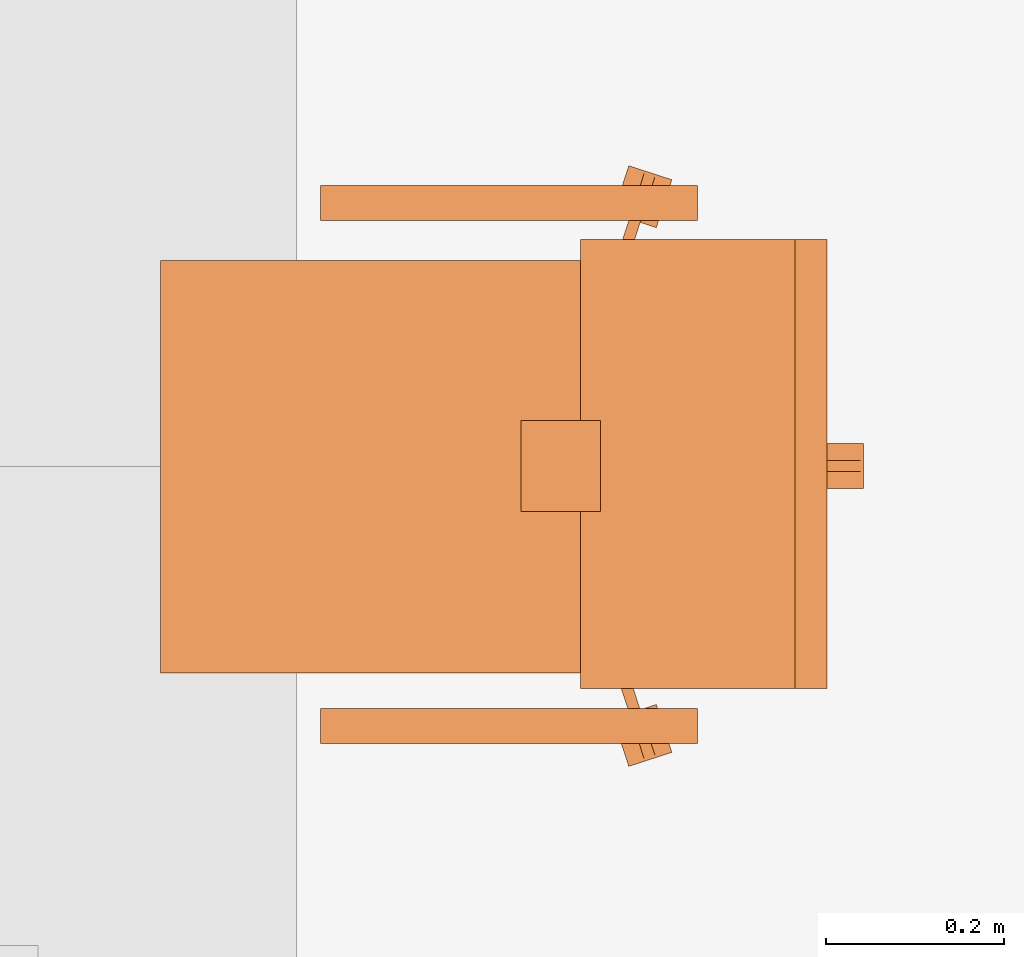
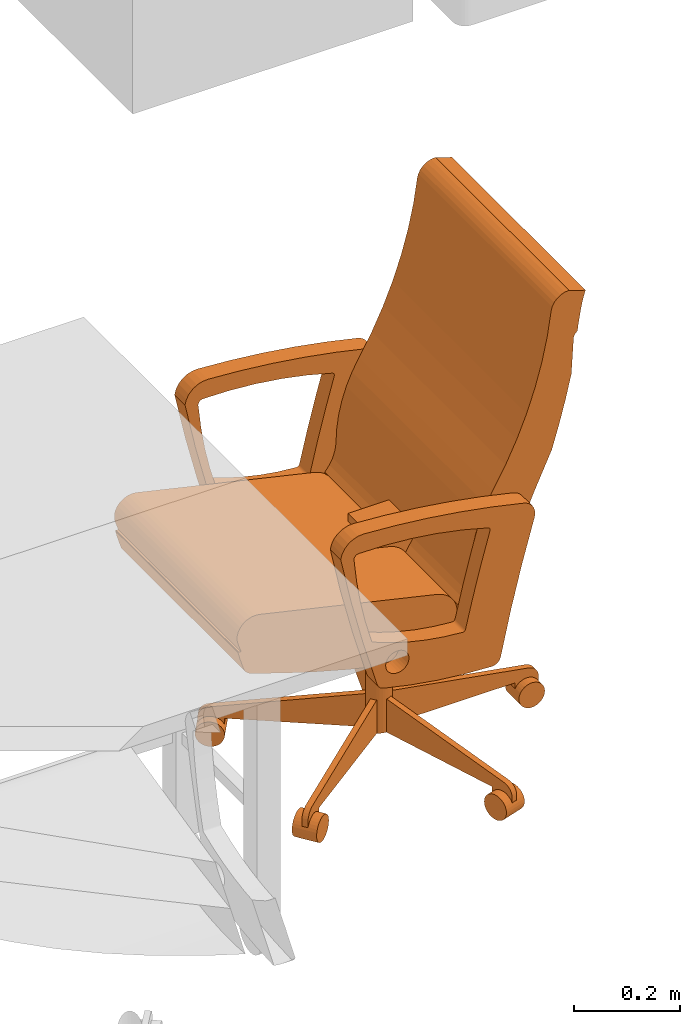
# One storey, part 58 of 142: 1 proxy.
"""IFC2X3 building model written with IfcOpenShell, lengths in feet."""

import ifcopenshell
import ifcopenshell.guid

model = None  # the IFC model being written
_history = None  # IfcOwnerHistory: only IFC2X3 demands one
_inside = {}  # id of a spatial element -> (the spatial element, [elements in it])
_under = {}  # id of a project, library or spatial element -> (it, [spatial elements below it])
_declared = {}  # id of a project -> (the project, [libraries it declares])
_typed = {}  # id of a type object -> (the type object, [elements of that type])
_made_of = {}  # id of a material, layer set ... -> (it, [elements and type objects made of it])


def new_model(schema):
    """Start an empty IFC model of exactly this schema.

    Asked for "IFC4X3", IfcOpenShell would pick the latest addendum, in which some entities
    have other attributes; the version numbers below select the first issue.
    IFC2X3 requires an IfcOwnerHistory on every rooted entity: one is made here for all.
    """
    global model, _history
    if schema == "IFC4X3":
        model = ifcopenshell.file(schema_version=(4, 3, 0, 0))
    else:
        model = ifcopenshell.file(schema=schema)
    _inside.clear()
    _under.clear()
    _declared.clear()
    _typed.clear()
    _made_of.clear()
    _history = None
    if model.schema == "IFC2X3":
        org = make("IfcOrganization", Name="unknown")
        user = make(
            "IfcPersonAndOrganization",
            ThePerson=make("IfcPerson", FamilyName="unknown"),
            TheOrganization=org,
        )
        app = make(
            "IfcApplication",
            ApplicationDeveloper=org,
            Version="unknown",
            ApplicationFullName="unknown",
            ApplicationIdentifier="unknown",
        )
        _history = make(
            "IfcOwnerHistory",
            OwningUser=user,
            OwningApplication=app,
            ChangeAction="ADDED",
            CreationDate=0,
        )
    return model


def make(cls, **values):
    """One entity of the class cls with the attributes given. An attribute that is None is left unset."""
    return model.create_entity(
        cls, **{name: value for name, value in values.items() if value is not None}
    )


def entity(cls, *values):
    """Any entity or typed value of the class cls, its attributes in the order of the schema. None: left unset."""
    e = model.create_entity(cls)
    for i, value in enumerate(values):
        if value is not None:
            e[i] = value
    return e


def rooted(cls, **values):
    """An entity with a GlobalId (a new one), such as an element, a storey or a relation."""
    return make(cls, GlobalId=ifcopenshell.guid.new(), OwnerHistory=_history, **values)


def si_unit(unit_type, name, prefix=None):
    """IfcSIUnit, for example si_unit("LENGTHUNIT", "METRE", prefix="MILLI")."""
    return make("IfcSIUnit", UnitType=unit_type, Prefix=prefix, Name=name)


def converted_unit(unit_type, name, factor, base, dimensions=None, offset=None):
    """IfcConversionBasedUnit, such as the inch: factor (a typed value) times the base unit."""
    return make(
        "IfcConversionBasedUnit"
        if offset is None
        else "IfcConversionBasedUnitWithOffset",
        ConversionOffset=offset,
        Dimensions=None
        if dimensions is None
        else entity("IfcDimensionalExponents", *dimensions),
        UnitType=unit_type,
        Name=name,
        ConversionFactor=make(
            "IfcMeasureWithUnit", ValueComponent=factor, UnitComponent=base
        ),
    )


def derived_unit(unit_type, elements):
    """IfcDerivedUnit: a product of units, each with its exponent."""
    return make(
        "IfcDerivedUnit",
        Elements=[
            make("IfcDerivedUnitElement", Unit=unit, Exponent=power)
            for unit, power in elements
        ],
        UnitType=unit_type,
    )


def assignment(units):
    """IfcUnitAssignment: the units of a project."""
    return None if units is None else make("IfcUnitAssignment", Units=units)


def point(xyz):
    """IfcCartesianPoint."""
    return None if xyz is None else make("IfcCartesianPoint", Coordinates=xyz)


def direction(xyz):
    """IfcDirection."""
    return None if xyz is None else make("IfcDirection", DirectionRatios=xyz)


def frame(location, z_axis=None, x_axis=None):
    """IfcAxis2Placement3D, a coordinate frame: its origin and axes. An axis left out is left unset."""
    return make(
        "IfcAxis2Placement3D",
        Location=point(location),
        Axis=direction(z_axis),
        RefDirection=direction(x_axis),
    )


def frame_2d(location, x_axis=None):
    """IfcAxis2Placement2D, a coordinate frame in the plane: its origin and x axis."""
    return make(
        "IfcAxis2Placement2D", Location=point(location), RefDirection=direction(x_axis)
    )


def origin():
    """The frame at (0, 0, 0) with its axes left unset."""
    return frame((0.0, 0.0, 0.0))


def place(relative_to, where):
    """IfcLocalPlacement: puts the frame where relative to a parent placement (None: the world)."""
    return make(
        "IfcLocalPlacement", PlacementRelTo=relative_to, RelativePlacement=where
    )


def context(
    kind, dimensions, precision=None, world=None, true_north=None, identifier=None
):
    """IfcGeometricRepresentationContext, for example the 3D "Model" context."""
    return make(
        "IfcGeometricRepresentationContext",
        ContextIdentifier=identifier,
        ContextType=kind,
        CoordinateSpaceDimension=dimensions,
        Precision=precision,
        WorldCoordinateSystem=world,
        TrueNorth=true_north,
    )


def subcontext(parent, identifier, kind, view, scale=None):
    """IfcGeometricRepresentationSubContext, for example "Body" below "Model"."""
    return make(
        "IfcGeometricRepresentationSubContext",
        ContextIdentifier=identifier,
        ContextType=kind,
        ParentContext=parent,
        TargetScale=scale,
        TargetView=view,
    )


def project(units=None, contexts=None):
    """IfcProject with its units and contexts."""
    return rooted(
        "IfcProject",
        Name="project",
        RepresentationContexts=contexts,
        UnitsInContext=assignment(units),
    )


def spatial(cls, under=None, at=None, **own):
    """A site, building, storey or space (cls), placed at a placement, below another one or the project."""
    s = rooted(cls, ObjectPlacement=at, **own)
    if under is not None:
        _under.setdefault(under.id(), (under, []))[1].append(s)
    return s


def polyline(points):
    """IfcPolyline through the points."""
    return make("IfcPolyline", Points=[point(p) for p in points])


def circle_curve(where, radius):
    """IfcCircle in the frame where."""
    return make("IfcCircle", Position=where, Radius=radius)


def parameter(value):
    """IfcParameterValue: where a trimmed curve begins or ends, as a parameter of its basis curve."""
    return model.create_entity("IfcParameterValue", value)


def trimmed(basis, trim1, trim2, sense, master):
    """IfcTrimmedCurve: the piece of a basis curve between two trims."""
    return make(
        "IfcTrimmedCurve",
        BasisCurve=basis,
        Trim1=trim1,
        Trim2=trim2,
        SenseAgreement=sense,
        MasterRepresentation=master,
    )


def segment(curve, same_sense, transition):
    """IfcCompositeCurveSegment."""
    return make(
        "IfcCompositeCurveSegment",
        Transition=transition,
        SameSense=same_sense,
        ParentCurve=curve,
    )


def composite_curve(segments, self_intersect=None):
    """IfcCompositeCurve: segments joined end to end."""
    return make("IfcCompositeCurve", Segments=segments, SelfIntersect=self_intersect)


def profile(cls, at=None, kind="AREA", **sizes):
    """A parametric profile (cls). Its sizes go by their IFC names, for example OverallWidth=200.0."""
    return make(cls, ProfileType=kind, Position=at, **sizes)


def circle(**sizes):
    """IfcCircleProfileDef."""
    return profile("IfcCircleProfileDef", **sizes)


def outline(outer, holes=None, kind="AREA"):
    """IfcArbitraryClosedProfileDef: a profile drawn as a closed curve; with holes, ...WithVoids."""
    if holes is None:
        return make("IfcArbitraryClosedProfileDef", ProfileType=kind, OuterCurve=outer)
    return make(
        "IfcArbitraryProfileDefWithVoids",
        ProfileType=kind,
        OuterCurve=outer,
        InnerCurves=holes,
    )


def extrude(swept, where, along, depth):
    """IfcExtrudedAreaSolid: the profile swept, set in the frame where, extruded along a direction by depth."""
    return make(
        "IfcExtrudedAreaSolid",
        SweptArea=swept,
        Position=where,
        ExtrudedDirection=direction(along),
        Depth=depth,
    )


def shape(context_of_items, identifier, shape_type, items):
    """IfcShapeRepresentation: the items that make up one representation, for example the "Body"."""
    return make(
        "IfcShapeRepresentation",
        ContextOfItems=context_of_items,
        RepresentationIdentifier=identifier,
        RepresentationType=shape_type,
        Items=items,
    )


def source(mapping_origin, context_of_items, identifier, shape_type, items):
    """IfcRepresentationMap: a shape defined once, which mapped items show again and again."""
    return make(
        "IfcRepresentationMap",
        MappingOrigin=mapping_origin,
        MappedRepresentation=shape(context_of_items, identifier, shape_type, items),
    )


def transform(
    local_origin,
    x_axis=None,
    y_axis=None,
    z_axis=None,
    scale=None,
    scale2=None,
    scale3=None,
    uniform=True,
):
    """IfcCartesianTransformationOperator3D, or its non-uniform kind. x_axis, y_axis, z_axis: its Axis1, 2, 3."""
    if uniform:
        return make(
            "IfcCartesianTransformationOperator3D",
            Axis1=direction(x_axis),
            Axis2=direction(y_axis),
            LocalOrigin=point(local_origin),
            Scale=scale,
            Axis3=direction(z_axis),
        )
    return make(
        "IfcCartesianTransformationOperator3DnonUniform",
        Axis1=direction(x_axis),
        Axis2=direction(y_axis),
        LocalOrigin=point(local_origin),
        Scale=scale,
        Axis3=direction(z_axis),
        Scale2=scale2,
        Scale3=scale3,
    )


def mapped(mapping_source, mapping_target):
    """IfcMappedItem: shows the shape of a source again, moved by a transform."""
    return make(
        "IfcMappedItem", MappingSource=mapping_source, MappingTarget=mapping_target
    )


def made_of(thing, what):
    """Note that an element or type object is made of a material, layer set ...; save() writes the relation."""
    if what is not None:
        _made_of.setdefault(what.id(), (what, []))[1].append(thing)
    return thing


def type_object(cls, material=None, **own):
    """A type object (cls), such as IfcWallType, which elements share."""
    return made_of(rooted(cls, **own), material)


def type_shapes(of_type, sources):
    """Give a type object the sources (RepresentationMaps) that its elements show as mapped items."""
    of_type.RepresentationMaps = sources


def element(
    cls,
    number,
    at=None,
    inside=None,
    cuts=None,
    type_object=None,
    material=None,
    context=None,
    identifier="Body",
    shape_type=None,
    held_by="IfcProductDefinitionShape",
    body=None,
    shapes=None,
    **own,
):
    """One element of the class cls, such as IfcWall. Its Tag is "e" and its number.

    at: its placement. inside: the storey or other place that contains it. cuts: it is an
    opening in that element (IfcRelVoidsElement). A single representation is given by context,
    identifier, shape_type and body (its items); several are given by shapes. held_by: the class
    of the entity that holds the representations. save() writes the other relations.
    """
    e = rooted(cls, Tag="e%d" % number, ObjectPlacement=at, **own)
    if body is not None:
        shapes = [shape(context, identifier, shape_type, body)]
    if shapes is not None:
        e.Representation = make(held_by, Representations=shapes)
    if inside is not None:
        _inside.setdefault(inside.id(), (inside, []))[1].append(e)
    if cuts is not None:
        rooted(
            "IfcRelVoidsElement", RelatingBuildingElement=cuts, RelatedOpeningElement=e
        )
    if type_object is not None:
        _typed.setdefault(type_object.id(), (type_object, []))[1].append(e)
    return made_of(e, material)


def aggregate(whole, parts):
    """IfcRelAggregates: a whole, such as a stair, and the parts it consists of."""
    return rooted("IfcRelAggregates", RelatingObject=whole, RelatedObjects=parts)


def save(model, path):
    """Write the relations noted so far, then the file.

    IfcRelAggregates (storeys below a building ...), IfcRelContainedInSpatialStructure (elements
    in a storey), IfcRelDefinesByType, IfcRelAssociatesMaterial and IfcRelDeclares: one each for
    every whole, place, type object, material and project.
    """
    for whole, parts in _under.values():
        aggregate(whole, parts)
    for where, things in _inside.values():
        rooted(
            "IfcRelContainedInSpatialStructure",
            RelatedElements=things,
            RelatingStructure=where,
        )
    for kind, things in _typed.values():
        rooted("IfcRelDefinesByType", RelatedObjects=things, RelatingType=kind)
    for what, things in _made_of.values():
        rooted("IfcRelAssociatesMaterial", RelatedObjects=things, RelatingMaterial=what)
    for by, libraries in _declared.values():
        rooted("IfcRelDeclares", RelatingContext=by, RelatedDefinitions=libraries)
    model.write(path)


model = new_model("IFC2X3")

# Units and contexts
model_context = context("Model", 3, precision=0.0001, world=origin(), true_north=direction((6.12303176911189e-17, 1.0)))
body_context = subcontext(model_context, "Body", "Model", "MODEL_VIEW")
ifc_project = project(units=[converted_unit("LENGTHUNIT", "FOOT", entity("IfcRatioMeasure", 0.3048), si_unit("LENGTHUNIT", "METRE"), dimensions=[1, 0, 0, 0, 0, 0, 0]), converted_unit("AREAUNIT", "SQUARE FOOT", entity("IfcRatioMeasure", 0.09290304), si_unit("AREAUNIT", "SQUARE_METRE"), dimensions=[2, 0, 0, 0, 0, 0, 0]), converted_unit("VOLUMEUNIT", "CUBIC FOOT", entity("IfcRatioMeasure", 0.028316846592), si_unit("VOLUMEUNIT", "CUBIC_METRE"), dimensions=[3, 0, 0, 0, 0, 0, 0]), converted_unit("PLANEANGLEUNIT", "DEGREE", entity("IfcRatioMeasure", 0.0174532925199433), si_unit("PLANEANGLEUNIT", "RADIAN"), dimensions=[0, 0, 0, 0, 0, 0, 0]), si_unit("MASSUNIT", "GRAM", prefix="KILO"), derived_unit("MASSDENSITYUNIT", [(si_unit("MASSUNIT", "GRAM", prefix="KILO"), 1), (si_unit("LENGTHUNIT", "METRE"), -3)]), si_unit("TIMEUNIT", "SECOND"), si_unit("FREQUENCYUNIT", "HERTZ"), si_unit("THERMODYNAMICTEMPERATUREUNIT", "DEGREE_CELSIUS"), derived_unit("THERMALTRANSMITTANCEUNIT", [(si_unit("MASSUNIT", "GRAM", prefix="KILO"), 1), (si_unit("THERMODYNAMICTEMPERATUREUNIT", "KELVIN"), -1), (si_unit("TIMEUNIT", "SECOND"), -3)]), derived_unit("VOLUMETRICFLOWRATEUNIT", [(si_unit("LENGTHUNIT", "METRE"), 3), (si_unit("TIMEUNIT", "SECOND"), -1)]), si_unit("ELECTRICCURRENTUNIT", "AMPERE"), si_unit("ELECTRICVOLTAGEUNIT", "VOLT"), si_unit("POWERUNIT", "WATT"), si_unit("FORCEUNIT", "NEWTON"), si_unit("ILLUMINANCEUNIT", "LUX"), si_unit("LUMINOUSFLUXUNIT", "LUMEN"), si_unit("LUMINOUSINTENSITYUNIT", "CANDELA"), derived_unit("USERDEFINED", [(si_unit("MASSUNIT", "GRAM", prefix="KILO"), -1), (si_unit("LENGTHUNIT", "METRE"), -2), (si_unit("TIMEUNIT", "SECOND"), 3), (si_unit("LUMINOUSFLUXUNIT", "LUMEN"), 1)]), derived_unit("LINEARVELOCITYUNIT", [(si_unit("LENGTHUNIT", "METRE"), 1), (si_unit("TIMEUNIT", "SECOND"), -1)]), si_unit("PRESSUREUNIT", "PASCAL"), derived_unit("USERDEFINED", [(si_unit("LENGTHUNIT", "METRE"), -2), (si_unit("MASSUNIT", "GRAM", prefix="KILO"), 1), (si_unit("TIMEUNIT", "SECOND"), -2)])], contexts=[model_context])

# Site, building, storey, space
site_placement = place(None, origin())
site = spatial("IfcSite", under=ifc_project, at=site_placement, Name="Default", CompositionType="ELEMENT")
building_placement = place(site_placement, origin())
building = spatial("IfcBuilding", under=site, at=building_placement, Name="OUTPATIENT / PACT CLINIC (Ch. 265)", CompositionType="ELEMENT")
storey_placement = place(building_placement, origin())
storey = spatial("IfcBuildingStorey", under=building, at=storey_placement, Name="LEVEL 1", CompositionType="ELEMENT", Elevation=0.0)
space_placement = place(storey_placement, origin())
space = spatial("IfcSpace", under=storey, at=space_placement, Name="WRTM1", CompositionType="ELEMENT", InteriorOrExteriorSpace="INTERNAL")

# Proxy
building_element_proxy_type = type_object("IfcBuildingElementProxyType", Name="F0220 - Chair, Conference", PredefinedType="NOTDEFINED")
shared_shape = source(origin(), body_context, "Body", "SweptSolid", [
    extrude(outline(composite_curve([segment(trimmed(circle_curve(frame_2d((9.14984606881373, 2.49371945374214), x_axis=(1.0, 0.0)), 10.0417603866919), [parameter(191.105394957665)], [parameter(197.183115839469)], True, "PARAMETER"), True, "CONTINUOUS"), segment(trimmed(circle_curve(frame_2d((-0.383994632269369, -0.454418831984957), x_axis=(1.0, 0.0)), 0.0625), [parameter(197.183115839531)], [parameter(255.942255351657)], True, "PARAMETER"), True, "CONTINUOUS"), segment(trimmed(circle_curve(frame_2d((0.478250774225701, 2.98907031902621), x_axis=(1.0, 0.0)), 3.61230065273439), [parameter(255.942255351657)], [parameter(268.328818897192)], True, "PARAMETER"), True, "CONTINUOUS"), segment(trimmed(circle_curve(frame_2d((0.374732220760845, -0.55901559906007), x_axis=(1.0, 0.0)), 0.0627049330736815), [parameter(268.328818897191)], [parameter(347.551961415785)], True, "PARAMETER"), True, "CONTINUOUS"), segment(trimmed(circle_curve(frame_2d((12.2871693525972, -3.01281927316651), x_axis=(1.0, 0.0)), 12.0998385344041), [parameter(163.635179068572)], [parameter(168.364820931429)], True, "PARAMETER"), False, "CONTINUOUS"), segment(trimmed(circle_curve(frame_2d((0.575436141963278, 0.426318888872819), x_axis=(1.0, 0.0)), 0.106404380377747), [parameter(343.635179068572)], [parameter(76.3648209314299)], True, "PARAMETER"), True, "CONTINUOUS"), segment(trimmed(circle_curve(frame_2d((-0.866637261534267, -5.51852508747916), x_axis=(1.0, 0.0)), 6.22365422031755), [parameter(76.36482093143)], [parameter(86.9930058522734)], True, "PARAMETER"), True, "CONTINUOUS"), segment(trimmed(circle_curve(frame_2d((-0.54837852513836, 0.540062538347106), x_axis=(1.0, 0.0)), 0.156713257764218), [parameter(86.9930058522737)], [parameter(172.863289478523)], True, "PARAMETER"), True, "CONTINUOUS")], self_intersect=False), holes=[composite_curve([segment(trimmed(circle_curve(frame_2d((0.165389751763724, -0.270570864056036), x_axis=(1.0, 0.0)), 0.0208333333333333), [parameter(266.624086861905)], [parameter(347.258129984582)], True, "PARAMETER"), False, "CONTINUOUS"), segment(trimmed(circle_curve(frame_2d((0.277251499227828, 1.62574197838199), x_axis=(1.0, 0.0)), 1.92044262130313), [parameter(246.929733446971)], [parameter(266.62408686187)], True, "PARAMETER"), False, "CONTINUOUS"), segment(trimmed(circle_curve(frame_2d((-0.46977528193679, -0.128159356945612), x_axis=(1.0, 0.0)), 0.0140798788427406), [parameter(191.196690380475)], [parameter(246.929733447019)], True, "PARAMETER"), False, "CONTINUOUS"), segment(trimmed(circle_curve(frame_2d((2.43855792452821, 0.768421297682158), x_axis=(1.0, 0.0)), 3.05740066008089), [parameter(184.763265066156)], [parameter(197.106187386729)], True, "PARAMETER"), False, "CONTINUOUS"), segment(trimmed(circle_curve(frame_2d((-0.574176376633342, 0.525693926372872), x_axis=(1.0, 0.0)), 0.0358851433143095), [parameter(90.6302244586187)], [parameter(198.112157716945)], True, "PARAMETER"), False, "CONTINUOUS"), segment(trimmed(circle_curve(frame_2d((-0.540439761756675, -2.54128905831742), x_axis=(1.0, 0.0)), 3.1030536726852), [parameter(73.3959262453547)], [parameter(90.6302244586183)], True, "PARAMETER"), False, "CONTINUOUS"), segment(trimmed(circle_curve(frame_2d((0.340324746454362, 0.412409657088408), x_axis=(1.0, 0.0)), 0.0208333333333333), [parameter(344.008713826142)], [parameter(73.3959262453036)], True, "PARAMETER"), False, "CONTINUOUS"), segment(trimmed(circle_curve(frame_2d((12.2923776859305, -3.0128192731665), x_axis=(1.0, 0.0)), 12.4123385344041), [parameter(164.008713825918)], [parameter(167.258129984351)], True, "PARAMETER"), True, "CONTINUOUS")], self_intersect=False), composite_curve([segment(trimmed(circle_curve(frame_2d((-0.300575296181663, -0.351220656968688), x_axis=(1.0, 0.0)), 0.0833333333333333), [parameter(180.0)], [parameter(360.0)], True, "PARAMETER"), False, "CONTINUOUS"), segment(trimmed(circle_curve(frame_2d((-0.300575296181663, -0.351220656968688), x_axis=(1.0, 0.0)), 0.0833333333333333), [parameter(0.0)], [parameter(180.0)], True, "PARAMETER"), False, "CONTINUOUS")], self_intersect=False)]), frame((-1.03331274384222, 0.0541567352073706, 1.78474215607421), z_axis=(1.0, 0.0, 0.0), x_axis=(0.0, 1.0, 0.0)), (0.0, 0.0, 1.0), 0.128812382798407),
    extrude(outline(composite_curve([segment(trimmed(circle_curve(frame_2d((9.14984606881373, 2.49371945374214), x_axis=(1.0, 0.0)), 10.0417603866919), [parameter(191.105394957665)], [parameter(197.183115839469)], True, "PARAMETER"), True, "CONTINUOUS"), segment(trimmed(circle_curve(frame_2d((-0.383994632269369, -0.454418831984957), x_axis=(1.0, 0.0)), 0.0625), [parameter(197.183115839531)], [parameter(255.942255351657)], True, "PARAMETER"), True, "CONTINUOUS"), segment(trimmed(circle_curve(frame_2d((0.478250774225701, 2.98907031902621), x_axis=(1.0, 0.0)), 3.61230065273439), [parameter(255.942255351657)], [parameter(268.328818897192)], True, "PARAMETER"), True, "CONTINUOUS"), segment(trimmed(circle_curve(frame_2d((0.374732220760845, -0.55901559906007), x_axis=(1.0, 0.0)), 0.0627049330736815), [parameter(268.328818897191)], [parameter(347.551961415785)], True, "PARAMETER"), True, "CONTINUOUS"), segment(trimmed(circle_curve(frame_2d((12.2871693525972, -3.01281927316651), x_axis=(1.0, 0.0)), 12.0998385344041), [parameter(163.635179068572)], [parameter(168.364820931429)], True, "PARAMETER"), False, "CONTINUOUS"), segment(trimmed(circle_curve(frame_2d((0.575436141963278, 0.426318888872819), x_axis=(1.0, 0.0)), 0.106404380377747), [parameter(343.635179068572)], [parameter(76.3648209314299)], True, "PARAMETER"), True, "CONTINUOUS"), segment(trimmed(circle_curve(frame_2d((-0.866637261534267, -5.51852508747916), x_axis=(1.0, 0.0)), 6.22365422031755), [parameter(76.36482093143)], [parameter(86.9930058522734)], True, "PARAMETER"), True, "CONTINUOUS"), segment(trimmed(circle_curve(frame_2d((-0.54837852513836, 0.540062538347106), x_axis=(1.0, 0.0)), 0.156713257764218), [parameter(86.9930058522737)], [parameter(172.863289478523)], True, "PARAMETER"), True, "CONTINUOUS")], self_intersect=False), holes=[composite_curve([segment(trimmed(circle_curve(frame_2d((0.165389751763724, -0.270570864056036), x_axis=(1.0, 0.0)), 0.0208333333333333), [parameter(266.624086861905)], [parameter(347.258129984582)], True, "PARAMETER"), False, "CONTINUOUS"), segment(trimmed(circle_curve(frame_2d((0.277251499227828, 1.62574197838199), x_axis=(1.0, 0.0)), 1.92044262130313), [parameter(246.929733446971)], [parameter(266.62408686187)], True, "PARAMETER"), False, "CONTINUOUS"), segment(trimmed(circle_curve(frame_2d((-0.46977528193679, -0.128159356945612), x_axis=(1.0, 0.0)), 0.0140798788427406), [parameter(191.196690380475)], [parameter(246.929733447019)], True, "PARAMETER"), False, "CONTINUOUS"), segment(trimmed(circle_curve(frame_2d((2.43855792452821, 0.768421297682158), x_axis=(1.0, 0.0)), 3.05740066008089), [parameter(184.763265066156)], [parameter(197.106187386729)], True, "PARAMETER"), False, "CONTINUOUS"), segment(trimmed(circle_curve(frame_2d((-0.574176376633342, 0.525693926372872), x_axis=(1.0, 0.0)), 0.0358851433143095), [parameter(90.6302244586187)], [parameter(198.112157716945)], True, "PARAMETER"), False, "CONTINUOUS"), segment(trimmed(circle_curve(frame_2d((-0.540439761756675, -2.54128905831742), x_axis=(1.0, 0.0)), 3.1030536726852), [parameter(73.3959262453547)], [parameter(90.6302244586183)], True, "PARAMETER"), False, "CONTINUOUS"), segment(trimmed(circle_curve(frame_2d((0.340324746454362, 0.412409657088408), x_axis=(1.0, 0.0)), 0.0208333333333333), [parameter(344.008713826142)], [parameter(73.3959262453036)], True, "PARAMETER"), False, "CONTINUOUS"), segment(trimmed(circle_curve(frame_2d((12.2923776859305, -3.0128192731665), x_axis=(1.0, 0.0)), 12.4123385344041), [parameter(164.008713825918)], [parameter(167.258129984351)], True, "PARAMETER"), True, "CONTINUOUS")], self_intersect=False), composite_curve([segment(trimmed(circle_curve(frame_2d((-0.300575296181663, -0.351220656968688), x_axis=(1.0, 0.0)), 0.0833333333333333), [parameter(180.0)], [parameter(360.0)], True, "PARAMETER"), False, "CONTINUOUS"), segment(trimmed(circle_curve(frame_2d((-0.300575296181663, -0.351220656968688), x_axis=(1.0, 0.0)), 0.0833333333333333), [parameter(0.0)], [parameter(180.0)], True, "PARAMETER"), False, "CONTINUOUS")], self_intersect=False)]), frame((0.889516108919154, 0.0541567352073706, 1.78474215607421), z_axis=(1.0, 0.0, 0.0), x_axis=(0.0, 1.0, 0.0)), (0.0, 0.0, 1.0), 0.128812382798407),
    extrude(outline(composite_curve([segment(trimmed(circle_curve(frame_2d((0.770862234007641, -1.97589519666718), x_axis=(1.0, 0.0)), 2.24250574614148), [parameter(83.7744840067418)], [parameter(104.587152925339)], True, "PARAMETER"), True, "CONTINUOUS"), segment(trimmed(circle_curve(frame_2d((2.30952075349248, -7.88833070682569), x_axis=(1.0, 0.0)), 8.35187262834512), [parameter(104.587152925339)], [parameter(109.615059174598)], True, "PARAMETER"), True, "CONTINUOUS"), segment(trimmed(circle_curve(frame_2d((-0.466775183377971, -0.0980657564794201), x_axis=(1.0, 0.0)), 0.0816823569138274), [parameter(109.6150591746)], [parameter(157.671413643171)], True, "PARAMETER"), True, "CONTINUOUS"), segment(trimmed(circle_curve(frame_2d((0.971574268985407, -0.592538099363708), x_axis=(1.0, 0.0)), 1.60252010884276), [parameter(160.857176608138)], [parameter(166.076927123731)], True, "PARAMETER"), True, "CONTINUOUS"), segment(trimmed(circle_curve(frame_2d((-0.579633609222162, -0.207989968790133), x_axis=(1.0, 0.0)), 0.00435768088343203), [parameter(166.076927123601)], [parameter(280.378705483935)], True, "PARAMETER"), True, "CONTINUOUS"), segment(trimmed(circle_curve(frame_2d((16.512596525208, -93.5315619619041), x_axis=(1.0, 0.0)), 94.871526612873), [parameter(99.4235676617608)], [parameter(100.378705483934)], True, "PARAMETER"), False, "CONTINUOUS"), segment(trimmed(circle_curve(frame_2d((1.8700360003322, -0.000965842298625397), x_axis=(1.0, 0.0)), 0.89298195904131), [parameter(163.451060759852)], [parameter(176.106880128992)], True, "PARAMETER"), False, "CONTINUOUS")], self_intersect=False)), frame((-0.758282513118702, -0.647436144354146, 1.48104866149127), z_axis=(-1.0, 0.0, 0.0), x_axis=(0.0, 1.0, 0.0)), (0.0, 0.0, -1.0), 1.51656502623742),
    extrude(outline(composite_curve([segment(trimmed(circle_curve(frame_2d((0.748071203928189, -0.232027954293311), x_axis=(1.0, 0.0)), 0.184186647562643), [parameter(350.278861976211)], [parameter(77.0065708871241)], True, "PARAMETER"), True, "CONTINUOUS"), segment(polyline([(0.789483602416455, -0.0525572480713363), (-0.479286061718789, 0.240208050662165)]), True, "CONTINUOUS"), segment(trimmed(circle_curve(frame_2d((-0.507608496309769, 0.112724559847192), x_axis=(1.0, 0.0)), 0.130591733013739), [parameter(77.474288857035)], [parameter(198.999999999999)], True, "PARAMETER"), True, "CONTINUOUS"), segment(polyline([(-0.631085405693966, 0.0702080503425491), (-0.608725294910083, 0.00526957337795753)]), True, "CONTINUOUS"), segment(trimmed(circle_curve(frame_2d((16.4660541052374, 93.3276059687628), x_axis=(1.0, 0.0)), 94.871526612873), [parameter(259.631526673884)], [parameter(260.574620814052)], True, "PARAMETER"), True, "CONTINUOUS")], self_intersect=False)), frame((-0.758282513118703, -0.600893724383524, 1.68500465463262), z_axis=(1.0, 0.0, 0.0), x_axis=(0.0, 1.0, 0.0)), (0.0, 0.0, 1.0), 1.51656502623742),
    extrude(outline(composite_curve([segment(trimmed(circle_curve(frame_2d((-5.48433918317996, 1.67691427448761), x_axis=(1.0, 0.0)), 5.89579235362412), [parameter(342.407441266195)], [parameter(347.674731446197)], True, "PARAMETER"), True, "CONTINUOUS"), segment(polyline([(0.275564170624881, 0.418391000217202), (0.291615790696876, 0.683111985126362)]), True, "CONTINUOUS"), segment(trimmed(circle_curve(frame_2d((0.343994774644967, 0.679935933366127), x_axis=(1.0, 0.0)), 0.0524751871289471), [parameter(121.399025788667)], [parameter(176.530061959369)], True, "PARAMETER"), False, "CONTINUOUS"), segment(trimmed(circle_curve(frame_2d((0.186262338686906, 0.76504705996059), x_axis=(1.0, 0.0)), 0.136484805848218), [parameter(342.817239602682)], [parameter(358.256726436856)], True, "PARAMETER"), True, "CONTINUOUS"), segment(polyline([(0.322683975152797, 0.760895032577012), (0.342033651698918, 0.876984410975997)]), True, "CONTINUOUS"), segment(trimmed(circle_curve(frame_2d((1.20150958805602, 0.733727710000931), x_axis=(1.0, 0.0)), 0.871333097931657), [parameter(161.216169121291)], [parameter(170.536983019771)], True, "PARAMETER"), False, "CONTINUOUS"), segment(trimmed(circle_curve(frame_2d((0.559823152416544, 1.74436883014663), x_axis=(1.0, 0.0)), 0.752717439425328), [parameter(246.521848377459)], [parameter(255.910489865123)], True, "PARAMETER"), False, "CONTINUOUS"), segment(trimmed(circle_curve(frame_2d((0.257390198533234, 0.926976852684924), x_axis=(1.0, 0.0)), 0.127016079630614), [parameter(88.8492703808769)], [parameter(173.15072961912)], True, "PARAMETER"), True, "CONTINUOUS"), segment(trimmed(circle_curve(frame_2d((-2.87663606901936, 1.30342050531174), x_axis=(1.0, 0.0)), 3.02953749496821), [parameter(328.849270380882)], [parameter(353.150729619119)], True, "PARAMETER"), False, "CONTINUOUS"), segment(trimmed(circle_curve(frame_2d((0.690213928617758, -0.852550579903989), x_axis=(1.0, 0.0)), 1.13827130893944), [parameter(148.849270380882)], [parameter(180.0)], True, "PARAMETER"), True, "CONTINUOUS"), segment(trimmed(circle_curve(frame_2d((-0.752422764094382, -0.836472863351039), x_axis=(1.0, 0.0)), 0.304789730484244), [parameter(317.298982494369)], [parameter(356.976233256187)], True, "PARAMETER"), False, "CONTINUOUS"), segment(trimmed(circle_curve(frame_2d((-0.687987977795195, -1.1351871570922), x_axis=(1.0, 0.0)), 0.184186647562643), [parameter(355.215711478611)], [parameter(29.9715875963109)], True, "PARAMETER"), False, "CONTINUOUS"), segment(trimmed(circle_curve(frame_2d((0.387434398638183, -1.10614935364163), x_axis=(1.0, 0.0)), 0.89298195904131), [parameter(182.849969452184)], [parameter(196.548939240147)], True, "PARAMETER"), True, "CONTINUOUS"), segment(trimmed(circle_curve(frame_2d((-0.711739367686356, 0.868780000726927), x_axis=(1.0, 0.0)), 2.24250574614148), [parameter(276.225515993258)], [parameter(282.457471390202)], True, "PARAMETER"), True, "CONTINUOUS"), segment(trimmed(circle_curve(frame_2d((2.38262323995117, -1.47671904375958), x_axis=(1.0, 0.0)), 2.61526502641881), [parameter(155.15786130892)], [parameter(176.584898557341)], True, "PARAMETER"), False, "CONTINUOUS"), segment(polyline([(0.00935197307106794, -0.377994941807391), (0.135706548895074, -0.105065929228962)]), True, "CONTINUOUS")], self_intersect=False)), frame((-0.836149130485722, 0.835165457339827, 2.58816385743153), z_axis=(1.0, 0.0, 0.0), x_axis=(0.0, 1.0, 0.0)), (0.0, 0.0, 1.0), 1.65266976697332),
    extrude(circle(Radius=0.0833333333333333, at=frame_2d((0.0, -1.11022302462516e-16), x_axis=(1.0, 0.0))), frame((-0.00206593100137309, 0.212136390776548, 0.173534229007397)), (0.0, 0.0, 1.0), 1.0846174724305),
    extrude(circle(Radius=0.0925205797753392, at=frame_2d((0.0, -1.52655665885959e-16), x_axis=(1.0, 0.0))), frame((0.962866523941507, 0.613283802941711, 0.0902008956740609), z_axis=(0.309016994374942, -0.951056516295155, 0.0), x_axis=(0.951056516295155, 0.309016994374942, 0.0)), (0.0, 0.0, 1.0), 0.166666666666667),
    extrude(outline(composite_curve([segment(polyline([(-0.29506616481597, -0.0510253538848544), (0.663267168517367, -0.0510253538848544)]), True, "CONTINUOUS"), segment(polyline([(0.663267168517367, -0.0510253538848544), (0.663267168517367, 0.198974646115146)]), True, "CONTINUOUS"), segment(polyline([(0.663267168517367, 0.198974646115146), (0.579933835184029, 0.198974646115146)]), True, "CONTINUOUS"), segment(polyline([(0.579933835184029, 0.198974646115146), (-0.392870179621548, 0.027443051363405)]), True, "CONTINUOUS"), segment(trimmed(circle_curve(frame_2d((-0.378399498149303, -0.0546242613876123), x_axis=(-1.0, 0.0)), 0.0833333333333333), [parameter(280.0)], [parameter(0.0)], True, "PARAMETER"), True, "CONTINUOUS"), segment(polyline([(-0.461732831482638, -0.0546242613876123), (-0.461732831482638, -0.134358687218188)]), True, "CONTINUOUS"), segment(polyline([(-0.461732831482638, -0.134358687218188), (-0.29506616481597, -0.134358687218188)]), True, "CONTINUOUS"), segment(polyline([(-0.29506616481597, -0.134358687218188), (-0.29506616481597, -0.0510253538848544)]), True, "CONTINUOUS")], self_intersect=False)), frame((0.635176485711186, 0.397283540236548, 0.224559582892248), z_axis=(-0.309016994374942, 0.951056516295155, 0.0), x_axis=(-0.951056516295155, -0.309016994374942, 0.0)), (0.0, 0.0, 1.0), 0.0416666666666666),
    extrude(circle(Radius=0.0925205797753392, at=frame_2d((0.0, -1.52655665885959e-16), x_axis=(1.0, 0.0))), frame((0.542792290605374, -0.679571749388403, 0.0902008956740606), z_axis=(0.80901699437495, 0.58778525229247, 0.0), x_axis=(0.58778525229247, -0.80901699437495, 0.0)), (0.0, 0.0, 1.0), 0.166666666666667),
    extrude(outline(composite_curve([segment(polyline([(-0.295066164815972, -0.0510253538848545), (0.663267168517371, -0.0510253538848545)]), True, "CONTINUOUS"), segment(polyline([(0.66326716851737, -0.0510253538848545), (0.66326716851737, 0.198974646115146)]), True, "CONTINUOUS"), segment(polyline([(0.66326716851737, 0.198974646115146), (0.579933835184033, 0.198974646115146)]), True, "CONTINUOUS"), segment(polyline([(0.579933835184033, 0.198974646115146), (-0.392870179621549, 0.0274430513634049)]), True, "CONTINUOUS"), segment(trimmed(circle_curve(frame_2d((-0.378399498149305, -0.0546242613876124), x_axis=(-1.0, 0.0)), 0.0833333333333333), [parameter(280.0)], [parameter(0.0)], True, "PARAMETER"), True, "CONTINUOUS"), segment(polyline([(-0.46173283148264, -0.0546242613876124), (-0.46173283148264, -0.134358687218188)]), True, "CONTINUOUS"), segment(polyline([(-0.46173283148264, -0.134358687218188), (-0.295066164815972, -0.134358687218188)]), True, "CONTINUOUS"), segment(polyline([(-0.295066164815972, -0.134358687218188), (-0.295066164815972, -0.0510253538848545)]), True, "CONTINUOUS")], self_intersect=False)), frame((0.370938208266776, -0.336703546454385, 0.224559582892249), z_axis=(0.80901699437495, 0.58778525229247, 0.0), x_axis=(-0.58778525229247, 0.80901699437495, 0.0)), (0.0, 0.0, 1.0), 0.0416666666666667),
    extrude(circle(Radius=0.0925205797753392, at=frame_2d((0.0, -1.52655665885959e-16), x_axis=(1.0, 0.0))), frame((-0.681760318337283, -0.581607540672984, 0.0902008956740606), z_axis=(0.809016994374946, -0.587785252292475, 0.0), x_axis=(-0.587785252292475, -0.809016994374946, 0.0)), (0.0, 0.0, 1.0), 0.166666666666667),
    extrude(outline(composite_curve([segment(polyline([(-0.29506616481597, -0.0510253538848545), (0.663267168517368, -0.0510253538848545)]), True, "CONTINUOUS"), segment(polyline([(0.663267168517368, -0.0510253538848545), (0.663267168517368, 0.198974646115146)]), True, "CONTINUOUS"), segment(polyline([(0.663267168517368, 0.198974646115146), (0.57993383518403, 0.198974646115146)]), True, "CONTINUOUS"), segment(polyline([(0.57993383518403, 0.198974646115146), (-0.392870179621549, 0.0274430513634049)]), True, "CONTINUOUS"), segment(trimmed(circle_curve(frame_2d((-0.378399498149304, -0.0546242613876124), x_axis=(-1.0, 0.0)), 0.0833333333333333), [parameter(280.0)], [parameter(0.0)], True, "PARAMETER"), True, "CONTINUOUS"), segment(polyline([(-0.461732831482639, -0.0546242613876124), (-0.461732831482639, -0.134358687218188)]), True, "CONTINUOUS"), segment(polyline([(-0.461732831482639, -0.134358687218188), (-0.29506616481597, -0.134358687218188)]), True, "CONTINUOUS"), segment(polyline([(-0.29506616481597, -0.134358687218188), (-0.29506616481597, -0.0510253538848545)]), True, "CONTINUOUS")], self_intersect=False)), frame((-0.408779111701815, -0.312212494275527, 0.224559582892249), z_axis=(0.809016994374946, -0.587785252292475, 0.0), x_axis=(0.587785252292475, 0.809016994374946, 0.0)), (0.0, 0.0, 1.0), 0.0416666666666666),
    extrude(circle(Radius=0.0925205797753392, at=frame_2d((0.0, -1.52655665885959e-16), x_axis=(1.0, 0.0))), frame((-1.01850121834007, 0.454774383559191, 0.0902008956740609), z_axis=(0.309016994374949, 0.951056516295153, 0.0), x_axis=(-0.951056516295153, 0.309016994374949, 0.0)), (0.0, 0.0, 1.0), 0.166666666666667),
    extrude(outline(composite_curve([segment(polyline([(0.0510253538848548, 0.29506616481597), (0.134358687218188, 0.29506616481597)]), True, "CONTINUOUS"), segment(polyline([(0.134358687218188, 0.29506616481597), (0.134358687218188, 0.461732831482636)]), True, "CONTINUOUS"), segment(polyline([(0.134358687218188, 0.461732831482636), (0.0546242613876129, 0.461732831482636)]), True, "CONTINUOUS"), segment(trimmed(circle_curve(frame_2d((0.0546242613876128, 0.378399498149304), x_axis=(0.0, 1.0)), 0.0833333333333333), [parameter(0.0)], [parameter(79.9999999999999)], True, "PARAMETER"), True, "CONTINUOUS"), segment(polyline([(-0.0274430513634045, 0.392870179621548), (-0.198974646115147, -0.579933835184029)]), True, "CONTINUOUS"), segment(polyline([(-0.198974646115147, -0.579933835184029), (-0.198974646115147, -0.663267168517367)]), True, "CONTINUOUS"), segment(polyline([(-0.198974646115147, -0.663267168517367), (0.0510253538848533, -0.663267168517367)]), True, "CONTINUOUS"), segment(polyline([(0.0510253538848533, -0.663267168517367), (0.0510253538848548, 0.29506616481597)]), True, "CONTINUOUS")], self_intersect=False)), frame((-0.639308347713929, 0.397283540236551, 0.224559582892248), z_axis=(0.309016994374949, 0.951056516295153, 0.0), x_axis=(0.0, 0.0, -1.0)), (0.0, 0.0, 1.0), 0.0416666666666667),
    extrude(circle(Radius=0.0925205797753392, at=frame_2d((9.00566595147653e-34, -1.52655665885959e-16), x_axis=(1.0, 0.0))), frame((-0.0853992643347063, 1.25380305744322, 0.0902008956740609), z_axis=(1.0, 0.0, 0.0), x_axis=(0.0, 1.0, 0.0)), (0.0, 0.0, 1.0), 0.166666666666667),
    extrude(outline(composite_curve([segment(polyline([(0.0510253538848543, 0.29506616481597), (0.134358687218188, 0.29506616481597)]), True, "CONTINUOUS"), segment(polyline([(0.134358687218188, 0.29506616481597), (0.134358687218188, 0.461732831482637)]), True, "CONTINUOUS"), segment(polyline([(0.134358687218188, 0.461732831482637), (0.0546242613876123, 0.461732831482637)]), True, "CONTINUOUS"), segment(trimmed(circle_curve(frame_2d((0.0546242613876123, 0.378399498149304), x_axis=(0.0, 1.0)), 0.0833333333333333), [parameter(0.0)], [parameter(79.9999999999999)], True, "PARAMETER"), True, "CONTINUOUS"), segment(polyline([(-0.0274430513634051, 0.392870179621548), (-0.198974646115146, -0.579933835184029)]), True, "CONTINUOUS"), segment(polyline([(-0.198974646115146, -0.579933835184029), (-0.198974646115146, -0.663267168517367)]), True, "CONTINUOUS"), segment(polyline([(-0.198974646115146, -0.663267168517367), (0.0510253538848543, -0.663267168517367)]), True, "CONTINUOUS"), segment(polyline([(0.0510253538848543, -0.663267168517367), (0.0510253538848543, 0.29506616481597)]), True, "CONTINUOUS")], self_intersect=False)), frame((-0.0228992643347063, 0.875403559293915, 0.224559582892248), z_axis=(1.0, 0.0, 0.0), x_axis=(0.0, 0.0, -1.0)), (0.0, 0.0, 1.0), 0.0416666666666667),
    extrude(outline(polyline([(-0.149999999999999, -0.140470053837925), (0.141666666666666, -0.140470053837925), (0.141666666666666, 0.189871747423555), (0.0166666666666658, 0.189871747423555), (-0.149999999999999, -0.0988033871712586), (-0.149999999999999, -0.140470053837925)])), frame((-0.168732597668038, 0.228803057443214, 1.57571509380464), z_axis=(1.0, 0.0, 0.0), x_axis=(0.0, -1.0, 0.0)), (0.0, 0.0, 1.0), 0.333333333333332),
])
type_shapes(building_element_proxy_type, [shared_shape])
proxy_placement = place(space_placement, frame((417.049220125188, -898.472588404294, 0.0), z_axis=(0.0, 0.0, 1.0), x_axis=(0.0, -1.0, 0.0)))
element("IfcBuildingElementProxy", 1, at=proxy_placement, inside=space, type_object=building_element_proxy_type, Name="F0220 - Chair, Conference:F0220 - Chair, Conference", ObjectType="F0220 - Chair, Conference", context=body_context, shape_type="MappedRepresentation", body=[
    mapped(shared_shape, transform((0.0, 0.0, 0.0), scale=1.0)),
])

save(model, "model.ifc")
